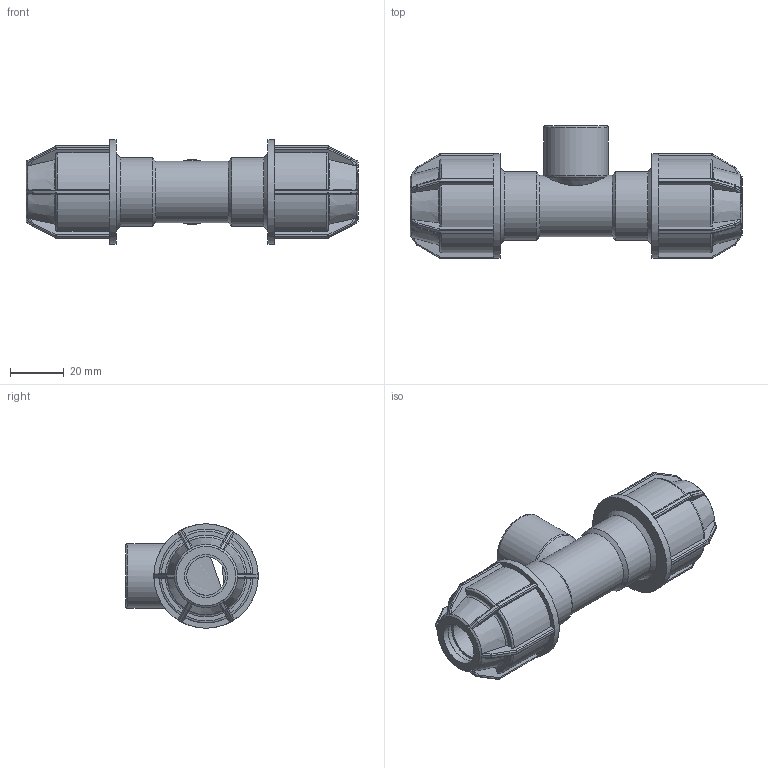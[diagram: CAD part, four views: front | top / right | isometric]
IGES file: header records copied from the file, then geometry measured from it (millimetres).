
Global section: file name: 141400016005.ipt; native system: Autodesk Inventor 2015; preprocessor: unknown; author: KIM; date: 20180416.111559; units: millimetre
Bounding box: 124 x 49.5 x 39 mm (x, y, z)
Volume: 63936.7 mm3; surface area: 24493.6 mm2
Topology: 1 solids, 1 shells, 413 faces, 998 edges, 585 vertices
Faces by surface type: plane 193, cylinder 114, sphere 48, revolution 40, cone 18
Full cylindrical faces by diameter (mm): 23.04 x1, 24.22 x1, 25.6 x2, 39 x2
